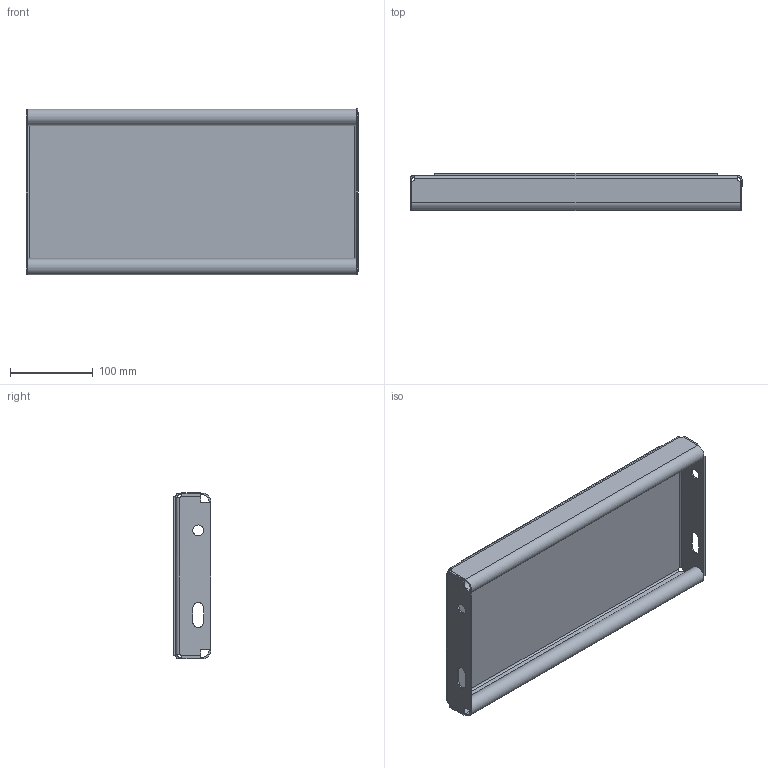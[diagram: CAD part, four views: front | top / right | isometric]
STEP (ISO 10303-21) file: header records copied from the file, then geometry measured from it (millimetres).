
FILE_DESCRIPTION (( 'STEP AP214' ), '1' );
FILE_NAME ('OPTIMO-Tread-Achil-O2-400x200x45x2-st240-F100110100-plain.STEP', '2021-03-15T10:19:17', ( '' ), ( '' ), 'SwSTEP 2.0', 'SolidWorks 2021', '' );
FILE_SCHEMA (( 'AUTOMOTIVE_DESIGN' ));
Length unit declared in the file: millimetre
Products named in the file (1): OPTIMO-Tread-Achil-O2-400x200x45x2-st240-F100110100-plain
Bounding box: 400 x 45 x 200 mm (x, y, z)
Volume: 505776 mm3; surface area: 317176.2 mm2
Topology: 1 solids, 1 shells, 264 faces, 672 edges, 428 vertices
Faces by surface type: plane 185, cylinder 40, bspline 39
Entity records: 10316 total; most frequent: CARTESIAN_POINT 4156, ORIENTED_EDGE 1344, DIRECTION 1094, EDGE_CURVE 672, VECTOR 514, LINE 514, VERTEX_POINT 428, EDGE_LOOP 290
